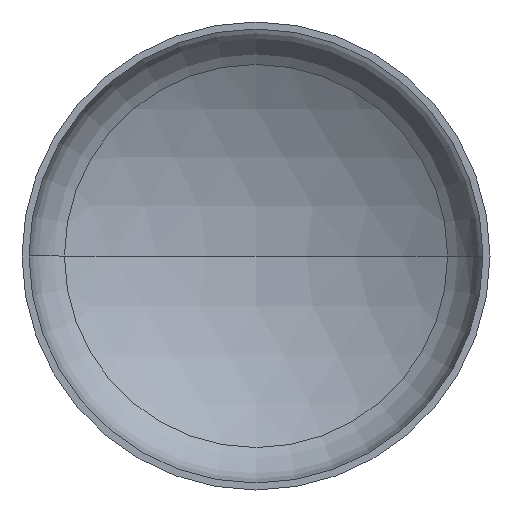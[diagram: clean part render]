
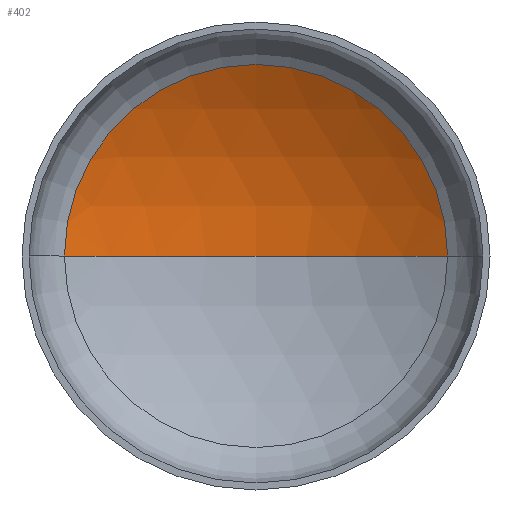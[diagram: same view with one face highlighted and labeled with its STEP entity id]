
A CAD part, front view. The second image highlights one B-rep face of the part: STEP entity #402.
In plain terms, the highlighted spherical face has radius 1600 mm.
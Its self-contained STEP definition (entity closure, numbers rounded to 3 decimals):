
#7 = EDGE_LOOP ( 'NONE', ( #74, #57, #11 ) ) ;
#11 = ORIENTED_EDGE ( 'NONE', *, *, #345, .T. ) ;
#28 = AXIS2_PLACEMENT_3D ( 'NONE', #160, #379, #303 ) ;
#34 = AXIS2_PLACEMENT_3D ( 'NONE', #384, #327, #184 ) ;
#39 = VERTEX_POINT ( 'NONE', #280 ) ;
#43 = AXIS2_PLACEMENT_3D ( 'NONE', #172, #169, #170 ) ;
#57 = ORIENTED_EDGE ( 'NONE', *, *, #352, .T. ) ;
#74 = ORIENTED_EDGE ( 'NONE', *, *, #356, .F. ) ;
#133 = VERTEX_POINT ( 'NONE', #301 ) ;
#152 = VERTEX_POINT ( 'NONE', #232 ) ;
#160 = CARTESIAN_POINT ( 'NONE',  ( 0., -1018.377, 0. ) ) ;
#169 = DIRECTION ( 'NONE',  ( 0., -1., 0. ) ) ;
#170 = DIRECTION ( 'NONE',  ( 1., 0., 0. ) ) ;
#172 = CARTESIAN_POINT ( 'NONE',  ( 0., 356.354, 0. ) ) ;
#184 = DIRECTION ( 'NONE',  ( -1., 0., 0. ) ) ;
#189 = DIRECTION ( 'NONE',  ( 0., 0., -1. ) ) ;
#215 = DIRECTION ( 'NONE',  ( -1., 0., 0. ) ) ;
#217 = CIRCLE ( 'NONE', #28, 1600. ) ;
#232 = CARTESIAN_POINT ( 'NONE',  ( -818.605, 356.354, 0. ) ) ;
#258 = SPHERICAL_SURFACE ( 'NONE', #282, 1600. ) ;
#280 = CARTESIAN_POINT ( 'NONE',  ( 0., 581.623, 0. ) ) ;
#282 = AXIS2_PLACEMENT_3D ( 'NONE', #334, #189, #215 ) ;
#288 = CIRCLE ( 'NONE', #34, 1600. ) ;
#301 = CARTESIAN_POINT ( 'NONE',  ( 818.605, 356.354, 0. ) ) ;
#303 = DIRECTION ( 'NONE',  ( 1., 0., 0. ) ) ;
#326 = FACE_OUTER_BOUND ( 'NONE', #7, .T. ) ;
#327 = DIRECTION ( 'NONE',  ( 0., 0., -1. ) ) ;
#334 = CARTESIAN_POINT ( 'NONE',  ( 0., -1018.377, 0. ) ) ;
#345 = EDGE_CURVE ( 'NONE', #133, #152, #354, .T. ) ;
#352 = EDGE_CURVE ( 'NONE', #39, #133, #288, .T. ) ;
#354 = CIRCLE ( 'NONE', #43, 818.605 ) ;
#356 = EDGE_CURVE ( 'NONE', #39, #152, #217, .T. ) ;
#379 = DIRECTION ( 'NONE',  ( 0., 0., 1. ) ) ;
#384 = CARTESIAN_POINT ( 'NONE',  ( 0., -1018.377, 0. ) ) ;
#402 = ADVANCED_FACE ( 'NONE', ( #326 ), #258, .F. ) ;
